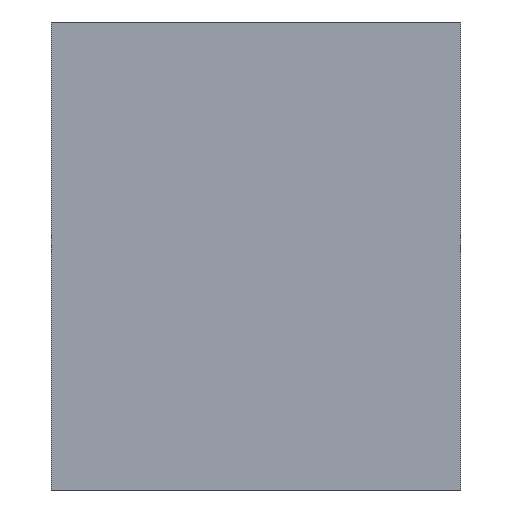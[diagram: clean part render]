
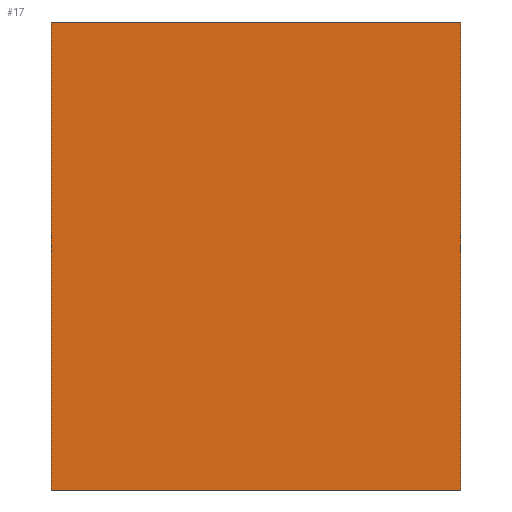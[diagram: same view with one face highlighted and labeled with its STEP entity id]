
A CAD part, left-side view. The second image highlights one B-rep face of the part: STEP entity #17.
In plain terms, the highlighted planar face has unit normal (-1, 0, 0).
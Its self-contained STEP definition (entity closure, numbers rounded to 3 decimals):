
#17 = ADVANCED_FACE('',(#18),#32,.F.);
#18 = FACE_BOUND('',#19,.F.);
#19 = EDGE_LOOP('',(#20,#55,#83,#111));
#20 = ORIENTED_EDGE('',*,*,#21,.F.);
#21 = EDGE_CURVE('',#22,#24,#26,.T.);
#22 = VERTEX_POINT('',#23);
#23 = CARTESIAN_POINT('',(-20.,50.5,5.));
#24 = VERTEX_POINT('',#25);
#25 = CARTESIAN_POINT('',(-20.,50.5,13.));
#26 = SURFACE_CURVE('',#27,(#31,#43),.PCURVE_S1.);
#27 = LINE('',#28,#29);
#28 = CARTESIAN_POINT('',(-20.,50.5,5.));
#29 = VECTOR('',#30,1.);
#30 = DIRECTION('',(0.,0.,1.));
#31 = PCURVE('',#32,#37);
#32 = PLANE('',#33);
#33 = AXIS2_PLACEMENT_3D('',#34,#35,#36);
#34 = CARTESIAN_POINT('',(-20.,50.5,5.));
#35 = DIRECTION('',(1.,0.,0.));
#36 = DIRECTION('',(0.,0.,1.));
#37 = DEFINITIONAL_REPRESENTATION('',(#38),#42);
#38 = LINE('',#39,#40);
#39 = CARTESIAN_POINT('',(0.,0.));
#40 = VECTOR('',#41,1.);
#41 = DIRECTION('',(1.,0.));
#42 = ( GEOMETRIC_REPRESENTATION_CONTEXT(2) 
PARAMETRIC_REPRESENTATION_CONTEXT() REPRESENTATION_CONTEXT('2D SPACE',''
  ) );
#43 = PCURVE('',#44,#49);
#44 = PLANE('',#45);
#45 = AXIS2_PLACEMENT_3D('',#46,#47,#48);
#46 = CARTESIAN_POINT('',(-20.,50.5,5.));
#47 = DIRECTION('',(0.,1.,0.));
#48 = DIRECTION('',(0.,-0.,1.));
#49 = DEFINITIONAL_REPRESENTATION('',(#50),#54);
#50 = LINE('',#51,#52);
#51 = CARTESIAN_POINT('',(0.,0.));
#52 = VECTOR('',#53,1.);
#53 = DIRECTION('',(1.,0.));
#54 = ( GEOMETRIC_REPRESENTATION_CONTEXT(2) 
PARAMETRIC_REPRESENTATION_CONTEXT() REPRESENTATION_CONTEXT('2D SPACE',''
  ) );
#55 = ORIENTED_EDGE('',*,*,#56,.T.);
#56 = EDGE_CURVE('',#22,#57,#59,.T.);
#57 = VERTEX_POINT('',#58);
#58 = CARTESIAN_POINT('',(-20.,57.5,5.));
#59 = SURFACE_CURVE('',#60,(#64,#71),.PCURVE_S1.);
#60 = LINE('',#61,#62);
#61 = CARTESIAN_POINT('',(-20.,50.5,5.));
#62 = VECTOR('',#63,1.);
#63 = DIRECTION('',(0.,1.,0.));
#64 = PCURVE('',#32,#65);
#65 = DEFINITIONAL_REPRESENTATION('',(#66),#70);
#66 = LINE('',#67,#68);
#67 = CARTESIAN_POINT('',(0.,0.));
#68 = VECTOR('',#69,1.);
#69 = DIRECTION('',(0.,-1.));
#70 = ( GEOMETRIC_REPRESENTATION_CONTEXT(2) 
PARAMETRIC_REPRESENTATION_CONTEXT() REPRESENTATION_CONTEXT('2D SPACE',''
  ) );
#71 = PCURVE('',#72,#77);
#72 = PLANE('',#73);
#73 = AXIS2_PLACEMENT_3D('',#74,#75,#76);
#74 = CARTESIAN_POINT('',(-20.,50.5,5.));
#75 = DIRECTION('',(0.,0.,1.));
#76 = DIRECTION('',(1.,0.,-0.));
#77 = DEFINITIONAL_REPRESENTATION('',(#78),#82);
#78 = LINE('',#79,#80);
#79 = CARTESIAN_POINT('',(0.,0.));
#80 = VECTOR('',#81,1.);
#81 = DIRECTION('',(0.,1.));
#82 = ( GEOMETRIC_REPRESENTATION_CONTEXT(2) 
PARAMETRIC_REPRESENTATION_CONTEXT() REPRESENTATION_CONTEXT('2D SPACE',''
  ) );
#83 = ORIENTED_EDGE('',*,*,#84,.T.);
#84 = EDGE_CURVE('',#57,#85,#87,.T.);
#85 = VERTEX_POINT('',#86);
#86 = CARTESIAN_POINT('',(-20.,57.5,13.));
#87 = SURFACE_CURVE('',#88,(#92,#99),.PCURVE_S1.);
#88 = LINE('',#89,#90);
#89 = CARTESIAN_POINT('',(-20.,57.5,5.));
#90 = VECTOR('',#91,1.);
#91 = DIRECTION('',(0.,0.,1.));
#92 = PCURVE('',#32,#93);
#93 = DEFINITIONAL_REPRESENTATION('',(#94),#98);
#94 = LINE('',#95,#96);
#95 = CARTESIAN_POINT('',(0.,-7.));
#96 = VECTOR('',#97,1.);
#97 = DIRECTION('',(1.,0.));
#98 = ( GEOMETRIC_REPRESENTATION_CONTEXT(2) 
PARAMETRIC_REPRESENTATION_CONTEXT() REPRESENTATION_CONTEXT('2D SPACE',''
  ) );
#99 = PCURVE('',#100,#105);
#100 = PLANE('',#101);
#101 = AXIS2_PLACEMENT_3D('',#102,#103,#104);
#102 = CARTESIAN_POINT('',(-20.,57.5,5.));
#103 = DIRECTION('',(0.,1.,0.));
#104 = DIRECTION('',(0.,-0.,1.));
#105 = DEFINITIONAL_REPRESENTATION('',(#106),#110);
#106 = LINE('',#107,#108);
#107 = CARTESIAN_POINT('',(0.,0.));
#108 = VECTOR('',#109,1.);
#109 = DIRECTION('',(1.,0.));
#110 = ( GEOMETRIC_REPRESENTATION_CONTEXT(2) 
PARAMETRIC_REPRESENTATION_CONTEXT() REPRESENTATION_CONTEXT('2D SPACE',''
  ) );
#111 = ORIENTED_EDGE('',*,*,#112,.F.);
#112 = EDGE_CURVE('',#24,#85,#113,.T.);
#113 = SURFACE_CURVE('',#114,(#118,#125),.PCURVE_S1.);
#114 = LINE('',#115,#116);
#115 = CARTESIAN_POINT('',(-20.,50.5,13.));
#116 = VECTOR('',#117,1.);
#117 = DIRECTION('',(0.,1.,0.));
#118 = PCURVE('',#32,#119);
#119 = DEFINITIONAL_REPRESENTATION('',(#120),#124);
#120 = LINE('',#121,#122);
#121 = CARTESIAN_POINT('',(8.,0.));
#122 = VECTOR('',#123,1.);
#123 = DIRECTION('',(0.,-1.));
#124 = ( GEOMETRIC_REPRESENTATION_CONTEXT(2) 
PARAMETRIC_REPRESENTATION_CONTEXT() REPRESENTATION_CONTEXT('2D SPACE',''
  ) );
#125 = PCURVE('',#126,#131);
#126 = PLANE('',#127);
#127 = AXIS2_PLACEMENT_3D('',#128,#129,#130);
#128 = CARTESIAN_POINT('',(-20.,50.5,13.));
#129 = DIRECTION('',(0.,0.,1.));
#130 = DIRECTION('',(1.,0.,-0.));
#131 = DEFINITIONAL_REPRESENTATION('',(#132),#136);
#132 = LINE('',#133,#134);
#133 = CARTESIAN_POINT('',(0.,0.));
#134 = VECTOR('',#135,1.);
#135 = DIRECTION('',(0.,1.));
#136 = ( GEOMETRIC_REPRESENTATION_CONTEXT(2) 
PARAMETRIC_REPRESENTATION_CONTEXT() REPRESENTATION_CONTEXT('2D SPACE',''
  ) );
